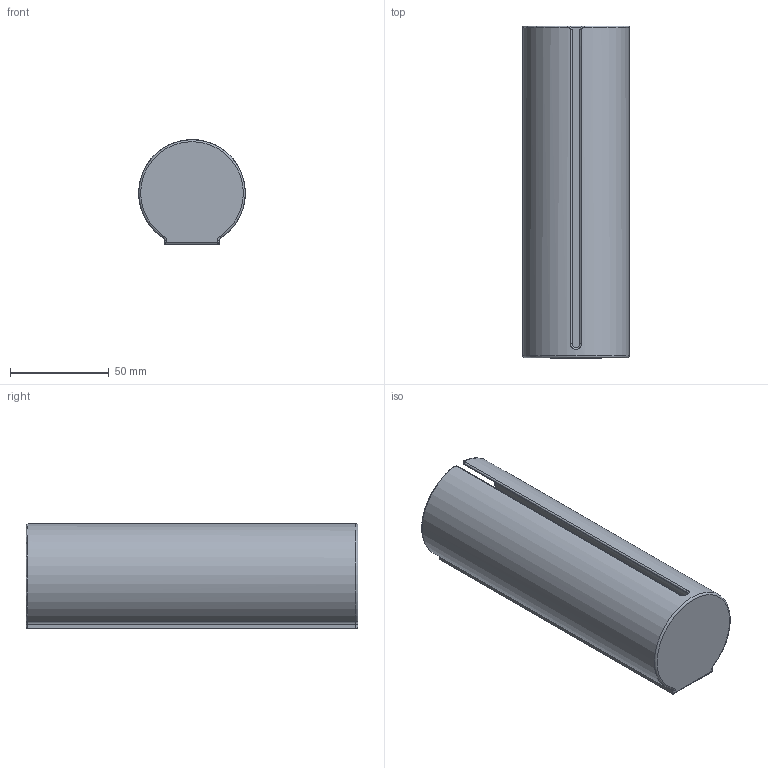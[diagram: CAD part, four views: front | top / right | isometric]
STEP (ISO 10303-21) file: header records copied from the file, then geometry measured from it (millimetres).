
FILE_DESCRIPTION(('Open CASCADE Model'),'2;1');
FILE_NAME('Open CASCADE Shape Model','2026-03-29T15:02:32',('Author'),( 'Open CASCADE'),'Open CASCADE STEP processor 7.9','Open CASCADE 7.9' ,'Unknown');
FILE_SCHEMA(('AUTOMOTIVE_DESIGN { 1 0 10303 214 1 1 1 1 }'));
Length unit declared in the file: millimetre
Products named in the file (1): COMPOUND
Bounding box: 53.97 x 168 x 53 mm (x, y, z)
Volume: 46648 mm3; surface area: 60704.4 mm2
Topology: 1 solids, 1 shells, 204 faces, 507 edges, 310 vertices
Faces by surface type: plane 155, cylinder 25, torus 12, bspline 10, revolution 2
Entity records: 13929 total; most frequent: CARTESIAN_POINT 3784, DIRECTION 1858, LINE 1319, VECTOR 1319, ORIENTED_EDGE 1014, PCURVE 1014, DEFINITIONAL_REPRESENTATION 1014, EDGE_CURVE 507
